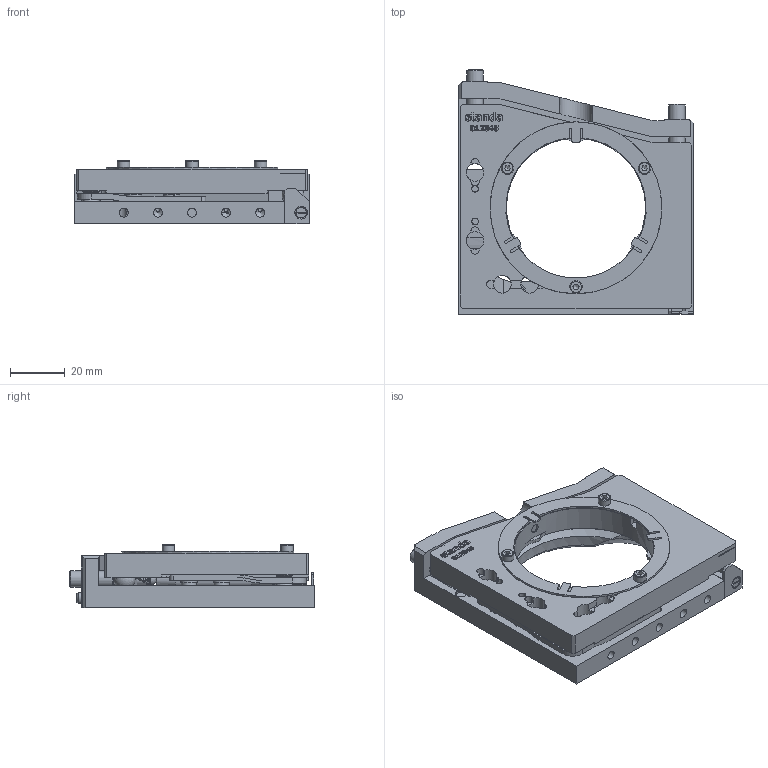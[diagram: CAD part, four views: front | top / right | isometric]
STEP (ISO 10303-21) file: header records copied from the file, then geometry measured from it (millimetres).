
FILE_DESCRIPTION(/* description */ (''),/* implementation_level */ '2;1');
FILE_NAME(/* name */ '5VDOM-2; 5KVDOM-2.stp',/* time_stamp */ '2024-03-20T13:56:47+02:00',/* author */ ('dsgn36'),/* organization */ (''),/* preprocessor_version */ 'ST-DEVELOPER v20',/* originating_system */ 'Autodesk Inventor 2024',/* authorisation */ '');
FILE_SCHEMA (('AUTOMOTIVE_DESIGN { 1 0 10303 214 3 1 1 }'));
Length unit declared in the file: millimetre
Products named in the file (1): 5VDOM-2 SB_Simplify_1
Bounding box: 86 x 89.64 x 23.2 mm (x, y, z)
Volume: 66493.4 mm3; surface area: 33592.6 mm2
Topology: 4 solids, 4 shells, 838 faces, 2318 edges, 1510 vertices
Faces by surface type: plane 449, cylinder 188, bspline 120, cone 59, torus 12, sphere 10
Full cylindrical faces by diameter (mm): 1.5 x4, 1.567 x1, 2 x1, 2.013 x5, 2.459 x4, 2.5 x1, 3 x9, 3.2 x2, 3.242 x6, 3.4 x4, 4 x2, 4.5 x3, 4.76 x2, 5.5 x5, 6 x7, 6.1 x1, 6.5 x8, 7 x3, 63 x1
Entity records: 29072 total; most frequent: CARTESIAN_POINT 7299, ORIENTED_EDGE 4594, DIRECTION 3983, EDGE_CURVE 2297, VERTEX_POINT 1522, AXIS2_PLACEMENT_3D 1342, LINE 1299, VECTOR 1299
